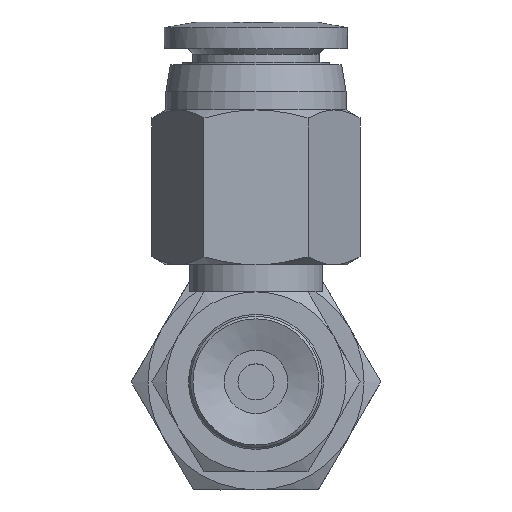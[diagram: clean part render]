
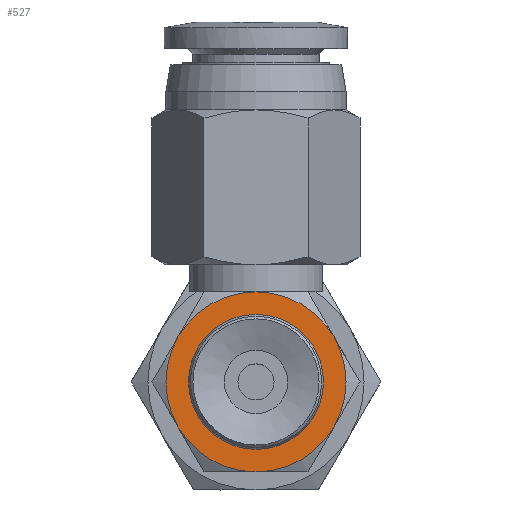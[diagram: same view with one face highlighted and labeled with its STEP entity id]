
A CAD part, front view. The second image highlights one B-rep face of the part: STEP entity #527.
In plain terms, the highlighted planar face has unit normal (0, -1, 0).
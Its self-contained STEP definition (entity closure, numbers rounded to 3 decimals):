
#527=ADVANCED_FACE('',(#800,#801),#802,.T.);
#800=FACE_BOUND('',#1232,.T.);
#801=FACE_OUTER_BOUND('',#1233,.T.);
#802=PLANE('',#1234);
#1232=EDGE_LOOP('',(#2196));
#1233=EDGE_LOOP('',(#2197,#2198,#2199,#2200,#2201,#2202));
#1234=AXIS2_PLACEMENT_3D('',#2203,#2204,#2205);
#2196=ORIENTED_EDGE('',*,*,#2972,.F.);
#2197=ORIENTED_EDGE('',*,*,#2937,.T.);
#2198=ORIENTED_EDGE('',*,*,#2934,.T.);
#2199=ORIENTED_EDGE('',*,*,#2973,.T.);
#2200=ORIENTED_EDGE('',*,*,#2918,.T.);
#2201=ORIENTED_EDGE('',*,*,#2942,.T.);
#2202=ORIENTED_EDGE('',*,*,#2974,.T.);
#2203=CARTESIAN_POINT('',(2.0,0.,0.0));
#2204=DIRECTION('',(0.0,-1.0,0.0));
#2205=DIRECTION('',(0.0,0.0,-1.0));
#2918=EDGE_CURVE('',#3287,#3279,#3289,.T.);
#2934=EDGE_CURVE('',#3318,#3315,#3319,.T.);
#2937=EDGE_CURVE('',#3307,#3318,#3322,.T.);
#2942=EDGE_CURVE('',#3279,#3300,#3331,.T.);
#2972=EDGE_CURVE('',#3384,#3384,#3385,.T.);
#2973=EDGE_CURVE('',#3315,#3287,#3386,.T.);
#2974=EDGE_CURVE('',#3300,#3307,#3387,.T.);
#3279=VERTEX_POINT('',#4081);
#3287=VERTEX_POINT('',#4097);
#3289=CIRCLE('',#4101,5.0);
#3300=VERTEX_POINT('',#4119);
#3307=VERTEX_POINT('',#4133);
#3315=VERTEX_POINT('',#4150);
#3318=VERTEX_POINT('',#4155);
#3319=CIRCLE('',#4156,5.0);
#3322=CIRCLE('',#4163,5.0);
#3331=CIRCLE('',#4186,5.0);
#3384=VERTEX_POINT('',#4299);
#3385=CIRCLE('',#4300,2.0);
#3386=CIRCLE('',#4301,5.0);
#3387=CIRCLE('',#4302,5.0);
#4081=CARTESIAN_POINT('',(-4.33,0.,2.5));
#4097=CARTESIAN_POINT('',(0.0,0.0,5.0));
#4101=AXIS2_PLACEMENT_3D('',#5016,#5017,#5018);
#4119=CARTESIAN_POINT('',(-4.33,0.0,-2.5));
#4133=CARTESIAN_POINT('',(0.0,0.0,-5.0));
#4150=CARTESIAN_POINT('',(4.33,0.0,2.5));
#4155=CARTESIAN_POINT('',(4.33,0.0,-2.5));
#4156=AXIS2_PLACEMENT_3D('',#5025,#5026,#5027);
#4163=AXIS2_PLACEMENT_3D('',#5028,#5029,#5030);
#4186=AXIS2_PLACEMENT_3D('',#5037,#5038,#5039);
#4299=CARTESIAN_POINT('',(0.0,0.,-2.0));
#4300=AXIS2_PLACEMENT_3D('',#5088,#5089,#5090);
#4301=AXIS2_PLACEMENT_3D('',#5091,#5092,#5093);
#4302=AXIS2_PLACEMENT_3D('',#5094,#5095,#5096);
#5016=CARTESIAN_POINT('',(0.0,0.,0.0));
#5017=DIRECTION('',(0.0,-1.0,0.0));
#5018=DIRECTION('',(0.0,0.0,-1.0));
#5025=CARTESIAN_POINT('',(0.0,0.,0.0));
#5026=DIRECTION('',(0.0,-1.0,0.0));
#5027=DIRECTION('',(0.0,0.0,-1.0));
#5028=CARTESIAN_POINT('',(0.0,0.,0.0));
#5029=DIRECTION('',(0.0,-1.0,0.0));
#5030=DIRECTION('',(0.0,0.0,-1.0));
#5037=CARTESIAN_POINT('',(0.0,0.,0.0));
#5038=DIRECTION('',(0.0,-1.0,0.0));
#5039=DIRECTION('',(0.0,0.0,-1.0));
#5088=CARTESIAN_POINT('',(0.0,0.,0.0));
#5089=DIRECTION('',(0.0,-1.0,0.0));
#5090=DIRECTION('',(0.0,0.0,-1.0));
#5091=CARTESIAN_POINT('',(0.0,0.,0.0));
#5092=DIRECTION('',(0.0,-1.0,0.0));
#5093=DIRECTION('',(0.0,0.0,-1.0));
#5094=CARTESIAN_POINT('',(0.0,0.,0.0));
#5095=DIRECTION('',(0.0,-1.0,0.0));
#5096=DIRECTION('',(0.0,0.0,-1.0));
